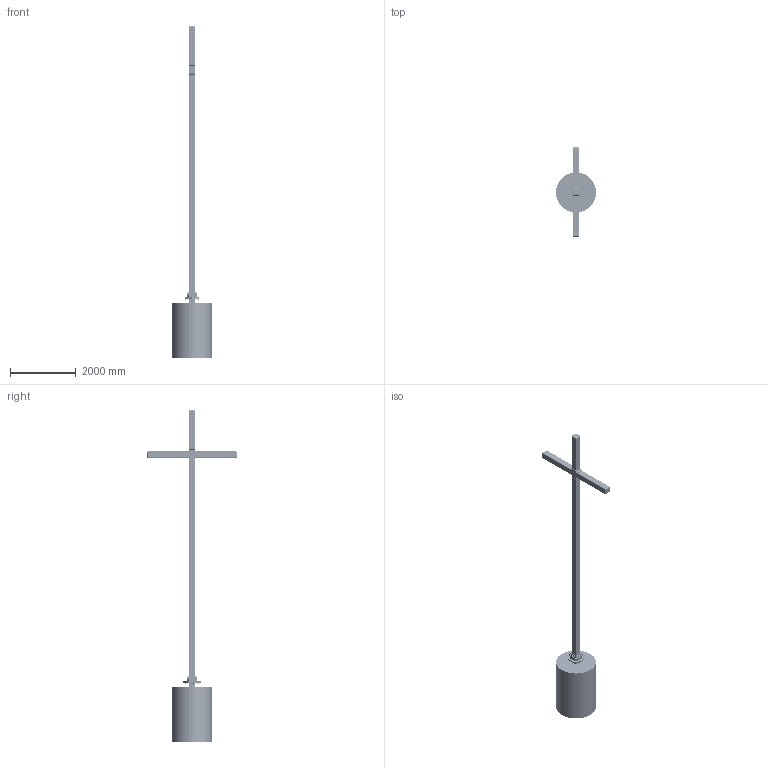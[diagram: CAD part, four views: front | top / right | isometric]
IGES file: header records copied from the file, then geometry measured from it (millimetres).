
Start section: SolidWorks IGES file using analytic representation for surfaces
Global section: file name: D:\Conyers Cross\Roof for cross\Roof for construction\Concrete Base Model\Concrete Base Redemption\Cross Redemp\CrosRed ASM 1.IGS; native system: SolidWorks 2025; preprocessor: SolidWorks 2025; author: daniel; date: 251230.090428; units: millimetre
Bounding box: 1219.2 x 2733.33 x 10130.4 mm (x, y, z)
Surface area: 35504542.2 mm2 (no closed solid volume)
Topology: 0 solids, 0 shells, 3767 faces, 77440 edges, 77431 vertices
Faces by surface type: revolution 1970, bspline 1797
